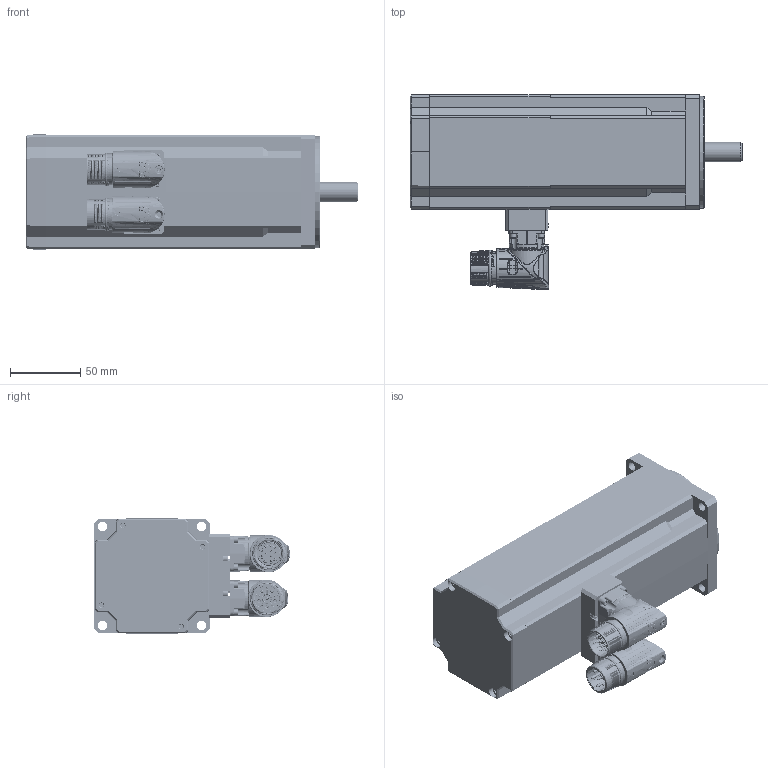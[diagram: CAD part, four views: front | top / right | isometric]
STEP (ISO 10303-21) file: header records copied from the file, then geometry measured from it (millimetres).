
FILE_DESCRIPTION(/* description */ (''),/* implementation_level */ '2;1');
FILE_NAME(/* name */ 'D:\InventorWorkspace2017\CAD\Projekte_EDEM\HLR\Zubehörteile\SMHA826003814S2I64C72.stp',/* time_stamp */ '2019-02-13T12:34:44+01:00',/* author */ ('544672'),/* organization */ (''),/* preprocessor_version */ 'ST-DEVELOPER v16.5',/* originating_system */ 'Autodesk Inventor 2017',/* authorisation */ '');
FILE_SCHEMA (('AUTOMOTIVE_DESIGN { 1 0 10303 214 3 1 1 }'));
Products named in the file (1): SMHA826003814S2I642
Bounding box: 237 x 139.55 x 82.42 mm (x, y, z)
Volume: 587155.6 mm3; surface area: 209228 mm2
Topology: 3 solids, 38 shells, 4570 faces, 11540 edges, 7068 vertices
Faces by surface type: bspline 1389, cylinder 1366, plane 999, torus 452, cone 239, sphere 125
Full cylindrical faces by diameter (mm): 0.8 x7, 1 x14, 1.18 x12, 1.2 x12, 1.4 x4, 1.9 x12, 2 x6, 2.15 x6, 2.2 x12, 2.459 x8, 3 x17, 3.1 x8, 3.2 x1, 3.242 x4, 3.5 x4, 4 x14, 4.134 x4, 4.5 x22, 5.5 x6, 5.9 x2, 6.5 x4, 7.5 x12, 14 x1, 17.4 x1, 19.16 x1, 20 x2, 21.6 x1, 22.5 x1, 23.5 x1, 24.4 x1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
Entity records: 266657 total; most frequent: CARTESIAN_POINT 161318, ORIENTED_EDGE 21744, DIRECTION 19720, EDGE_CURVE 10872, AXIS2_PLACEMENT_3D 8384, VERTEX_POINT 6884, EDGE_LOOP 5148, ADVANCED_FACE 4567
